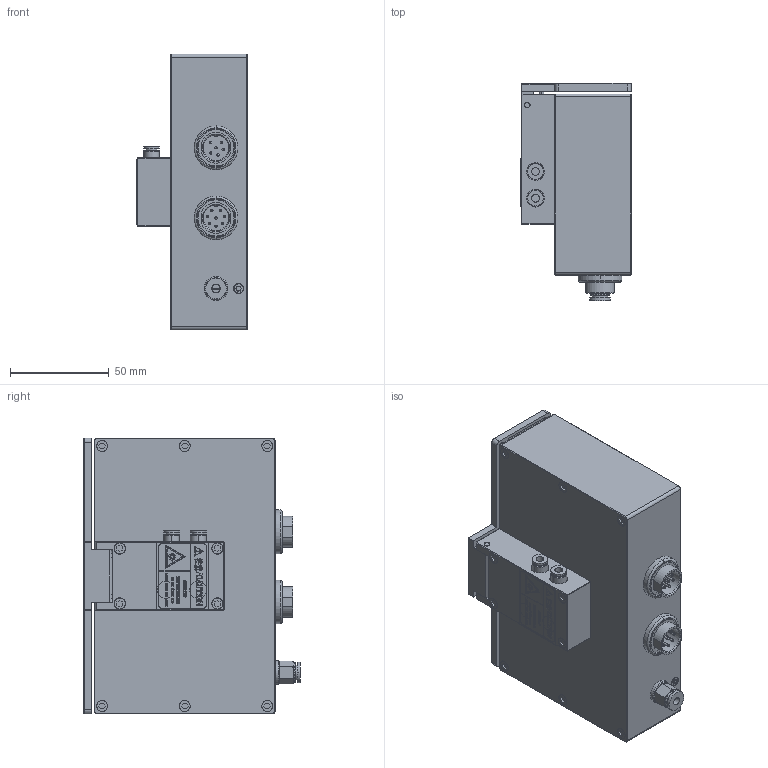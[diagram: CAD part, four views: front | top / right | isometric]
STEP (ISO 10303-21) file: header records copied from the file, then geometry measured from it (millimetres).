
FILE_DESCRIPTION((''),'2;1');
FILE_NAME('SHANGGAI-20240524','2024-10-09T',('qqwan'),(''),'PRO/ENGINEER BY PARAMETRIC TECHNOLOGY CORPORATION, 2010280','PRO/ENGINEER BY PARAMETRIC TECHNOLOGY CORPORATION, 2010280','');
FILE_SCHEMA(('CONFIG_CONTROL_DESIGN'));
Products named in the file (1): SHANGGAI-20240524
Bounding box: 55.86 x 110.02 x 140 mm (x, y, z)
Surface area: 129244.3 mm2 (no closed solid volume)
Topology: 0 solids, 52 shells, 3175 faces, 8866 edges, 5955 vertices
Faces by surface type: plane 2162, cylinder 637, cone 165, extrusion 157, sphere 28, torus 26
Entity records: 103277 total; most frequent: CARTESIAN_POINT 21655, ORIENTED_EDGE 17388, DIRECTION 15801, EDGE_CURVE 8772, VECTOR 6707, LINE 6550, VERTEX_POINT 5955, AXIS2_PLACEMENT_3D 4547
